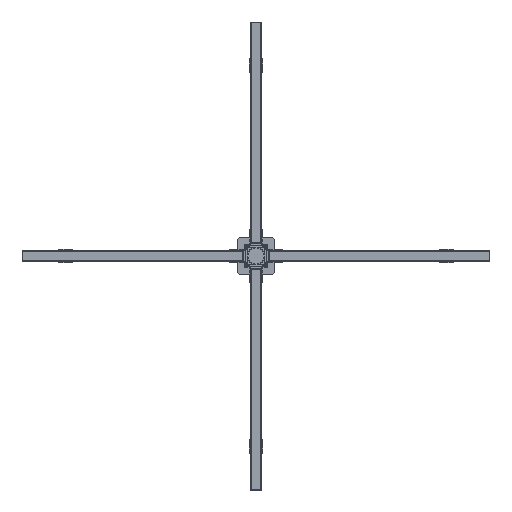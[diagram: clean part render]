
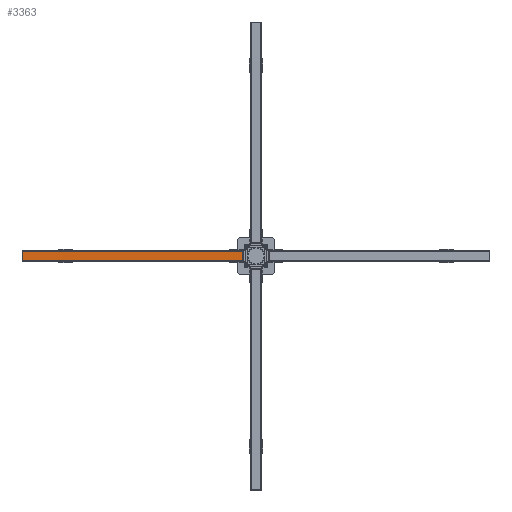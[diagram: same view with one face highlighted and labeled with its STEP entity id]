
A CAD part, front view. The second image highlights one B-rep face of the part: STEP entity #3363.
In plain terms, the highlighted planar face has unit normal (0, -1, 0).
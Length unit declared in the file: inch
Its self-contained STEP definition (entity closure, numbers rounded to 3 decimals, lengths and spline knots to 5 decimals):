
#225 = CARTESIAN_POINT ( 'NONE',  ( 12., -0.625, -0.625 ) ) ;
#427 = EDGE_CURVE ( 'NONE', #802, #2881, #5657, .T. ) ;
#604 = EDGE_CURVE ( 'NONE', #802, #7258, #2575, .T. ) ;
#802 = VERTEX_POINT ( 'NONE', #4937 ) ;
#866 = DIRECTION ( 'NONE',  ( 0., 0., -1. ) ) ;
#997 = VECTOR ( 'NONE', #6048, 39.37008 ) ;
#1214 = EDGE_LOOP ( 'NONE', ( #2664, #7581, #2053, #3780 ) ) ;
#1240 = EDGE_CURVE ( 'NONE', #7258, #4889, #6071, .T. ) ;
#1440 = CARTESIAN_POINT ( 'NONE',  ( 12., -0.625, 0.625 ) ) ;
#1464 = FACE_OUTER_BOUND ( 'NONE', #1214, .T. ) ;
#2053 = ORIENTED_EDGE ( 'NONE', *, *, #604, .F. ) ;
#2262 = PLANE ( 'NONE',  #5206 ) ;
#2283 = CARTESIAN_POINT ( 'NONE',  ( 12., -0.625, 0.625 ) ) ;
#2575 = LINE ( 'NONE', #2283, #6465 ) ;
#2664 = ORIENTED_EDGE ( 'NONE', *, *, #3232, .T. ) ;
#2881 = VERTEX_POINT ( 'NONE', #3322 ) ;
#3232 = EDGE_CURVE ( 'NONE', #2881, #4889, #5242, .T. ) ;
#3322 = CARTESIAN_POINT ( 'NONE',  ( -12., -0.625, 0.625 ) ) ;
#3363 = ADVANCED_FACE ( 'NONE', ( #1464 ), #2262, .F. ) ;
#3513 = CARTESIAN_POINT ( 'NONE',  ( 12., -0.625, -0.625 ) ) ;
#3530 = DIRECTION ( 'NONE',  ( 0., 0., 1. ) ) ;
#3561 = VECTOR ( 'NONE', #866, 39.37008 ) ;
#3775 = VECTOR ( 'NONE', #3977, 39.37008 ) ;
#3780 = ORIENTED_EDGE ( 'NONE', *, *, #427, .T. ) ;
#3977 = DIRECTION ( 'NONE',  ( -1., 0., 0. ) ) ;
#4889 = VERTEX_POINT ( 'NONE', #5793 ) ;
#4937 = CARTESIAN_POINT ( 'NONE',  ( 12., -0.625, 0.625 ) ) ;
#5206 = AXIS2_PLACEMENT_3D ( 'NONE', #6684, #7335, #3530 ) ;
#5242 = LINE ( 'NONE', #7192, #3561 ) ;
#5657 = LINE ( 'NONE', #1440, #3775 ) ;
#5793 = CARTESIAN_POINT ( 'NONE',  ( -12., -0.625, -0.625 ) ) ;
#6048 = DIRECTION ( 'NONE',  ( -1., 0., 0. ) ) ;
#6071 = LINE ( 'NONE', #3513, #997 ) ;
#6465 = VECTOR ( 'NONE', #6712, 39.37008 ) ;
#6684 = CARTESIAN_POINT ( 'NONE',  ( 12., -0.625, 0.625 ) ) ;
#6712 = DIRECTION ( 'NONE',  ( 0., 0., -1. ) ) ;
#7192 = CARTESIAN_POINT ( 'NONE',  ( -12., -0.625, 0.625 ) ) ;
#7258 = VERTEX_POINT ( 'NONE', #225 ) ;
#7335 = DIRECTION ( 'NONE',  ( 0., 1., 0. ) ) ;
#7581 = ORIENTED_EDGE ( 'NONE', *, *, #1240, .F. ) ;
